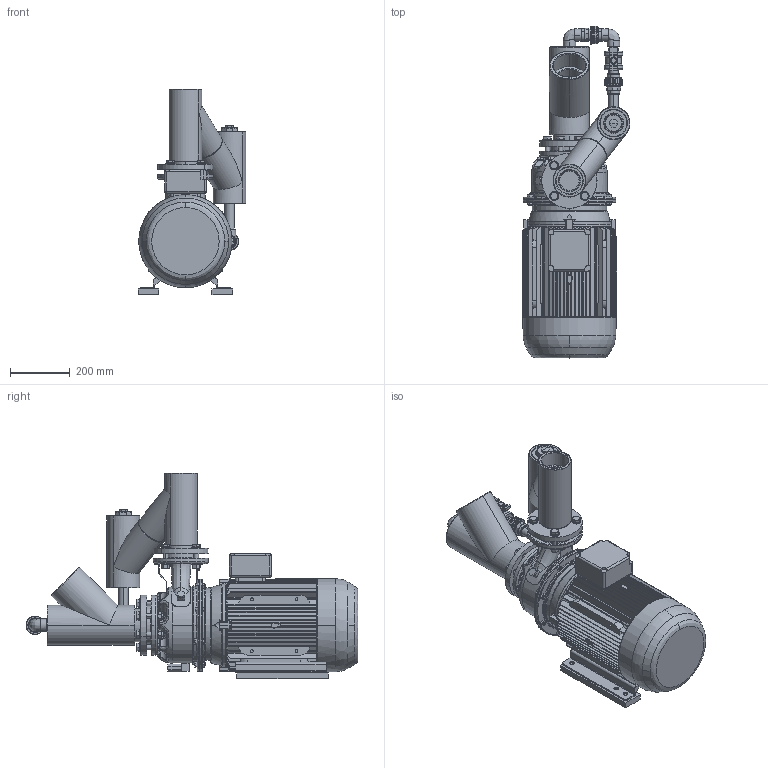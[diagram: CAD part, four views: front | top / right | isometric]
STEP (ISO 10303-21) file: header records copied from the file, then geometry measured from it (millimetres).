
FILE_DESCRIPTION (( 'STEP AP203' ), '1' );
FILE_NAME ('Lowara SHE 65-200 z.a.z handbed.by-pass.STEP', '2011-04-07T13:10:25', ( '' ), ( '' ), 'SwSTEP 2.0', 'SolidWorks 2010', '' );
FILE_SCHEMA (( 'CONFIG_CONTROL_DESIGN' ));
Products named in the file (1): Lowara SHE 65-200 z.a.z handbed.by-pass
Bounding box: 361.95 x 1113.45 x 690.24 mm (x, y, z)
Volume: 51950462.5 mm3; surface area: 3736356.6 mm2
Topology: 83 solids, 89 shells, 3232 faces, 8038 edges, 5012 vertices
Faces by surface type: plane 1226, cylinder 949, cone 588, bspline 443, torus 26
Entity records: 133113 total; most frequent: CARTESIAN_POINT 60227, ORIENTED_EDGE 15914, DIRECTION 14378, EDGE_CURVE 7957, AXIS2_PLACEMENT_3D 5746, VERTEX_POINT 5019, EDGE_LOOP 3564, FACE_OUTER_BOUND 3235
